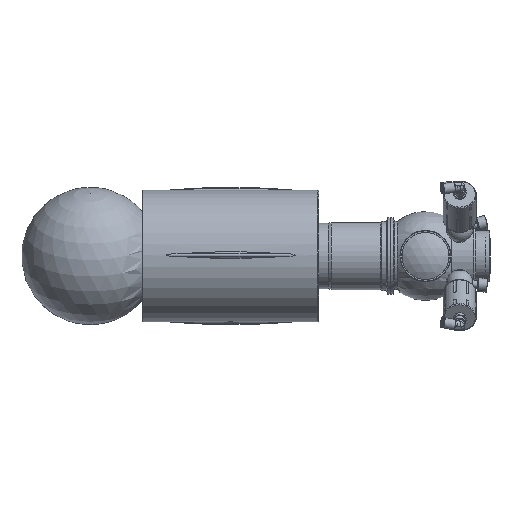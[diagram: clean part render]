
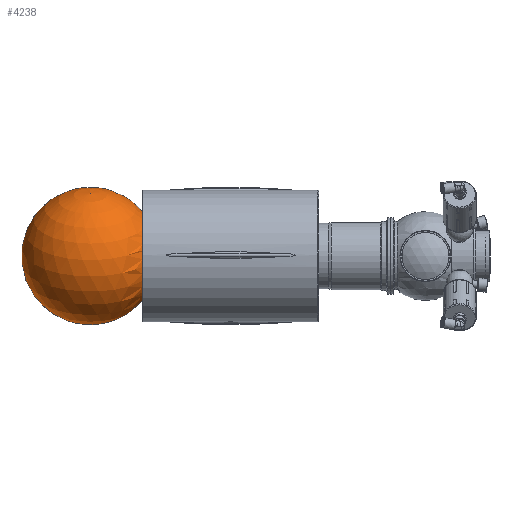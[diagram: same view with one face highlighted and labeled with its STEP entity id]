
A CAD part, left-side view. The second image highlights one B-rep face of the part: STEP entity #4238.
In plain terms, the highlighted spherical face has radius 72.5 mm.
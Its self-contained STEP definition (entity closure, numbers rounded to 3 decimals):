
#159=FACE_BOUND('',#1238,.T.);
#914=SPHERICAL_SURFACE('',#4741,72.5);
#989=FACE_OUTER_BOUND('',#1237,.T.);
#1237=EDGE_LOOP('',(#3181,#3182));
#1238=EDGE_LOOP('',(#3183));
#1530=CIRCLE('',#4742,72.5);
#1531=CIRCLE('',#4743,46.648);
#1860=VERTEX_POINT('',#7175);
#1861=VERTEX_POINT('',#7176);
#1862=VERTEX_POINT('',#7178);
#2366=EDGE_CURVE('',#1860,#1861,#1530,.T.);
#2367=EDGE_CURVE('',#1862,#1862,#1531,.T.);
#3181=ORIENTED_EDGE('',*,*,#2366,.T.);
#3182=ORIENTED_EDGE('',*,*,#2366,.F.);
#3183=ORIENTED_EDGE('',*,*,#2367,.F.);
#4238=ADVANCED_FACE('',(#989,#159),#914,.T.);
#4741=AXIS2_PLACEMENT_3D('',#7174,#5493,#5494);
#4742=AXIS2_PLACEMENT_3D('',#7177,#5495,#5496);
#4743=AXIS2_PLACEMENT_3D('',#7179,#5497,#5498);
#5493=DIRECTION('center_axis',(0.,0.,1.));
#5494=DIRECTION('ref_axis',(1.,0.,0.));
#5495=DIRECTION('center_axis',(0.,-1.,0.));
#5496=DIRECTION('ref_axis',(-1.,0.,0.));
#5497=DIRECTION('center_axis',(0.,-1.,0.));
#5498=DIRECTION('ref_axis',(1.,0.,0.));
#7174=CARTESIAN_POINT('Origin',(150.,266.5,0.));
#7175=CARTESIAN_POINT('',(150.,266.5,72.5));
#7176=CARTESIAN_POINT('',(150.,266.5,-72.5));
#7177=CARTESIAN_POINT('Origin',(150.,266.5,0.));
#7178=CARTESIAN_POINT('',(196.648,211.,0.));
#7179=CARTESIAN_POINT('Origin',(150.,211.,0.));
